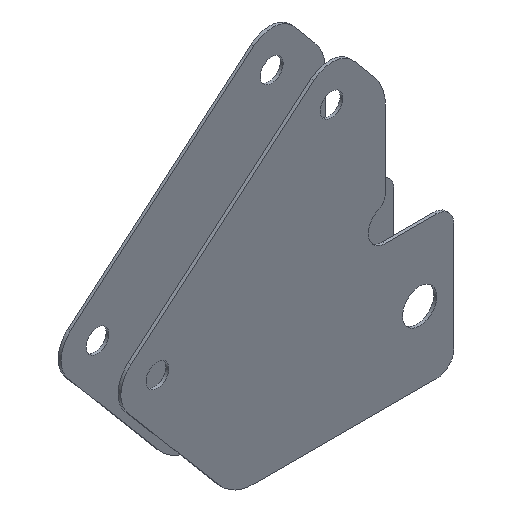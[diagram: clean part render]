
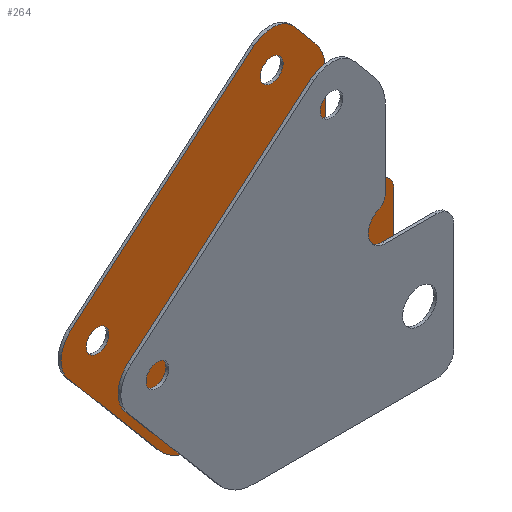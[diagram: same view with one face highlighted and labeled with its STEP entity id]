
A CAD part, isometric view. The second image highlights one B-rep face of the part: STEP entity #264.
In plain terms, the highlighted planar face has unit normal (0, -1, 0).
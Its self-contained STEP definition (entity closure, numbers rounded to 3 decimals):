
#57=CARTESIAN_POINT('Axis2P3D Location',(-9.449,5.,50.82)) ;
#61=CARTESIAN_POINT('Vertex',(-11.449,5.,50.82)) ;
#63=CARTESIAN_POINT('Vertex',(-7.449,5.,50.82)) ;
#92=CARTESIAN_POINT('Axis2P3D Location',(0.,5.,0.)) ;
#97=CARTESIAN_POINT('Line Origine',(12.,5.,12.5)) ;
#101=CARTESIAN_POINT('Vertex',(12.,5.,22.)) ;
#103=CARTESIAN_POINT('Vertex',(12.,5.,3.)) ;
#106=CARTESIAN_POINT('Axis2P3D Location',(9.,5.,22.)) ;
#110=CARTESIAN_POINT('Vertex',(9.,5.,25.)) ;
#113=CARTESIAN_POINT('Line Origine',(4.5,5.,25.)) ;
#117=CARTESIAN_POINT('Vertex',(0.,5.,25.)) ;
#120=CARTESIAN_POINT('Axis2P3D Location',(0.,5.,28.)) ;
#124=CARTESIAN_POINT('Vertex',(-1.2,5.,30.75)) ;
#127=CARTESIAN_POINT('Axis2P3D Location',(-2.,5.,32.583)) ;
#131=CARTESIAN_POINT('Vertex',(0.,5.,32.583)) ;
#134=CARTESIAN_POINT('Line Origine',(0.,5.,39.294)) ;
#138=CARTESIAN_POINT('Vertex',(0.,5.,46.006)) ;
#141=CARTESIAN_POINT('Axis2P3D Location',(-8.,5.,46.006)) ;
#145=CARTESIAN_POINT('Vertex',(-1.89,5.,51.17)) ;
#148=CARTESIAN_POINT('Line Origine',(-3.701,5.,53.313)) ;
#152=CARTESIAN_POINT('Vertex',(-5.512,5.,55.457)) ;
#155=CARTESIAN_POINT('Axis2P3D Location',(-9.331,5.,52.229)) ;
#159=CARTESIAN_POINT('Vertex',(-12.559,5.,56.048)) ;
#162=CARTESIAN_POINT('Line Origine',(-28.598,5.,42.492)) ;
#166=CARTESIAN_POINT('Vertex',(-44.637,5.,28.937)) ;
#169=CARTESIAN_POINT('Axis2P3D Location',(-41.409,5.,25.118)) ;
#173=CARTESIAN_POINT('Vertex',(-45.228,5.,21.891)) ;
#176=CARTESIAN_POINT('Line Origine',(-37.176,5.,12.363)) ;
#180=CARTESIAN_POINT('Vertex',(-29.124,5.,2.836)) ;
#183=CARTESIAN_POINT('Axis2P3D Location',(-23.014,5.,8.)) ;
#187=CARTESIAN_POINT('Vertex',(-23.014,5.,0.)) ;
#190=CARTESIAN_POINT('Line Origine',(-7.007,5.,0.)) ;
#194=CARTESIAN_POINT('Vertex',(9.,5.,0.)) ;
#197=CARTESIAN_POINT('Axis2P3D Location',(9.,5.,3.)) ;
#219=CARTESIAN_POINT('Axis2P3D Location',(-9.449,5.,50.82)) ;
#228=CARTESIAN_POINT('Axis2P3D Location',(-40.,5.,25.)) ;
#232=CARTESIAN_POINT('Vertex',(-42.,5.,25.)) ;
#234=CARTESIAN_POINT('Vertex',(-38.,5.,25.)) ;
#237=CARTESIAN_POINT('Axis2P3D Location',(-40.,5.,25.)) ;
#246=CARTESIAN_POINT('Axis2P3D Location',(6.,5.,12.5)) ;
#250=CARTESIAN_POINT('Vertex',(3.004,5.,12.347)) ;
#252=CARTESIAN_POINT('Vertex',(8.996,5.,12.653)) ;
#255=CARTESIAN_POINT('Axis2P3D Location',(6.,5.,12.5)) ;
#58=DIRECTION('Axis2P3D Direction',(0.,1.,0.)) ;
#93=DIRECTION('Axis2P3D Direction',(0.,1.,0.)) ;
#94=DIRECTION('Axis2P3D XDirection',(-1.,0.,0.)) ;
#98=DIRECTION('Vector Direction',(0.,0.,1.)) ;
#107=DIRECTION('Axis2P3D Direction',(0.,1.,0.)) ;
#114=DIRECTION('Vector Direction',(1.,0.,0.)) ;
#121=DIRECTION('Axis2P3D Direction',(0.,1.,0.)) ;
#128=DIRECTION('Axis2P3D Direction',(0.,1.,0.)) ;
#135=DIRECTION('Vector Direction',(0.,0.,1.)) ;
#142=DIRECTION('Axis2P3D Direction',(0.,1.,0.)) ;
#149=DIRECTION('Vector Direction',(-0.645,0.,0.764)) ;
#156=DIRECTION('Axis2P3D Direction',(0.,1.,0.)) ;
#163=DIRECTION('Vector Direction',(-0.764,0.,-0.645)) ;
#170=DIRECTION('Axis2P3D Direction',(0.,1.,0.)) ;
#177=DIRECTION('Vector Direction',(0.645,0.,-0.764)) ;
#184=DIRECTION('Axis2P3D Direction',(0.,1.,0.)) ;
#191=DIRECTION('Vector Direction',(1.,0.,0.)) ;
#198=DIRECTION('Axis2P3D Direction',(0.,1.,0.)) ;
#220=DIRECTION('Axis2P3D Direction',(0.,1.,0.)) ;
#229=DIRECTION('Axis2P3D Direction',(0.,1.,0.)) ;
#238=DIRECTION('Axis2P3D Direction',(0.,1.,0.)) ;
#247=DIRECTION('Axis2P3D Direction',(0.,1.,0.)) ;
#256=DIRECTION('Axis2P3D Direction',(0.,1.,0.)) ;
#59=AXIS2_PLACEMENT_3D('Circle Axis2P3D',#57,#58,$) ;
#95=AXIS2_PLACEMENT_3D('Plane Axis2P3D',#92,#93,#94) ;
#108=AXIS2_PLACEMENT_3D('Circle Axis2P3D',#106,#107,$) ;
#122=AXIS2_PLACEMENT_3D('Circle Axis2P3D',#120,#121,$) ;
#129=AXIS2_PLACEMENT_3D('Circle Axis2P3D',#127,#128,$) ;
#143=AXIS2_PLACEMENT_3D('Circle Axis2P3D',#141,#142,$) ;
#157=AXIS2_PLACEMENT_3D('Circle Axis2P3D',#155,#156,$) ;
#171=AXIS2_PLACEMENT_3D('Circle Axis2P3D',#169,#170,$) ;
#185=AXIS2_PLACEMENT_3D('Circle Axis2P3D',#183,#184,$) ;
#199=AXIS2_PLACEMENT_3D('Circle Axis2P3D',#197,#198,$) ;
#221=AXIS2_PLACEMENT_3D('Circle Axis2P3D',#219,#220,$) ;
#230=AXIS2_PLACEMENT_3D('Circle Axis2P3D',#228,#229,$) ;
#239=AXIS2_PLACEMENT_3D('Circle Axis2P3D',#237,#238,$) ;
#248=AXIS2_PLACEMENT_3D('Circle Axis2P3D',#246,#247,$) ;
#257=AXIS2_PLACEMENT_3D('Circle Axis2P3D',#255,#256,$) ;
#203=ORIENTED_EDGE('',*,*,#105,.F.) ;
#204=ORIENTED_EDGE('',*,*,#112,.F.) ;
#205=ORIENTED_EDGE('',*,*,#119,.F.) ;
#206=ORIENTED_EDGE('',*,*,#126,.F.) ;
#207=ORIENTED_EDGE('',*,*,#133,.F.) ;
#208=ORIENTED_EDGE('',*,*,#140,.F.) ;
#209=ORIENTED_EDGE('',*,*,#147,.F.) ;
#210=ORIENTED_EDGE('',*,*,#154,.F.) ;
#211=ORIENTED_EDGE('',*,*,#161,.F.) ;
#212=ORIENTED_EDGE('',*,*,#168,.F.) ;
#213=ORIENTED_EDGE('',*,*,#175,.F.) ;
#214=ORIENTED_EDGE('',*,*,#182,.F.) ;
#215=ORIENTED_EDGE('',*,*,#189,.F.) ;
#216=ORIENTED_EDGE('',*,*,#196,.F.) ;
#217=ORIENTED_EDGE('',*,*,#201,.F.) ;
#225=ORIENTED_EDGE('',*,*,#65,.T.) ;
#226=ORIENTED_EDGE('',*,*,#223,.T.) ;
#243=ORIENTED_EDGE('',*,*,#236,.T.) ;
#244=ORIENTED_EDGE('',*,*,#241,.T.) ;
#261=ORIENTED_EDGE('',*,*,#254,.T.) ;
#262=ORIENTED_EDGE('',*,*,#259,.T.) ;
#227=FACE_BOUND('',#224,.T.) ;
#245=FACE_BOUND('',#242,.T.) ;
#263=FACE_BOUND('',#260,.T.) ;
#99=VECTOR('Line Direction',#98,1.) ;
#115=VECTOR('Line Direction',#114,1.) ;
#136=VECTOR('Line Direction',#135,1.) ;
#150=VECTOR('Line Direction',#149,1.) ;
#164=VECTOR('Line Direction',#163,1.) ;
#178=VECTOR('Line Direction',#177,1.) ;
#192=VECTOR('Line Direction',#191,1.) ;
#264=ADVANCED_FACE('Corps principal',(#218,#227,#245,#263),#96,.F.) ;
#60=CIRCLE('generated circle',#59,2.) ;
#109=CIRCLE('generated circle',#108,3.) ;
#123=CIRCLE('generated circle',#122,3.) ;
#130=CIRCLE('generated circle',#129,2.) ;
#144=CIRCLE('generated circle',#143,8.) ;
#158=CIRCLE('generated circle',#157,5.) ;
#172=CIRCLE('generated circle',#171,5.) ;
#186=CIRCLE('generated circle',#185,8.) ;
#200=CIRCLE('generated circle',#199,3.) ;
#222=CIRCLE('generated circle',#221,2.) ;
#231=CIRCLE('generated circle',#230,2.) ;
#240=CIRCLE('generated circle',#239,2.) ;
#249=CIRCLE('generated circle',#248,3.) ;
#258=CIRCLE('generated circle',#257,3.) ;
#65=EDGE_CURVE('',#62,#64,#60,.T.) ;
#105=EDGE_CURVE('',#102,#104,#100,.F.) ;
#112=EDGE_CURVE('',#111,#102,#109,.T.) ;
#119=EDGE_CURVE('',#118,#111,#116,.T.) ;
#126=EDGE_CURVE('',#125,#118,#123,.F.) ;
#133=EDGE_CURVE('',#132,#125,#130,.T.) ;
#140=EDGE_CURVE('',#139,#132,#137,.F.) ;
#147=EDGE_CURVE('',#146,#139,#144,.T.) ;
#154=EDGE_CURVE('',#153,#146,#151,.F.) ;
#161=EDGE_CURVE('',#160,#153,#158,.T.) ;
#168=EDGE_CURVE('',#167,#160,#165,.F.) ;
#175=EDGE_CURVE('',#174,#167,#172,.T.) ;
#182=EDGE_CURVE('',#181,#174,#179,.F.) ;
#189=EDGE_CURVE('',#188,#181,#186,.T.) ;
#196=EDGE_CURVE('',#195,#188,#193,.F.) ;
#201=EDGE_CURVE('',#104,#195,#200,.T.) ;
#223=EDGE_CURVE('',#64,#62,#222,.T.) ;
#236=EDGE_CURVE('',#233,#235,#231,.T.) ;
#241=EDGE_CURVE('',#235,#233,#240,.T.) ;
#254=EDGE_CURVE('',#251,#253,#249,.T.) ;
#259=EDGE_CURVE('',#253,#251,#258,.T.) ;
#202=EDGE_LOOP('',(#203,#204,#205,#206,#207,#208,#209,#210,#211,#212,#213,#214,#215,#216,#217)) ;
#224=EDGE_LOOP('',(#225,#226)) ;
#242=EDGE_LOOP('',(#243,#244)) ;
#260=EDGE_LOOP('',(#261,#262)) ;
#218=FACE_OUTER_BOUND('',#202,.T.) ;
#100=LINE('Line',#97,#99) ;
#116=LINE('Line',#113,#115) ;
#137=LINE('Line',#134,#136) ;
#151=LINE('Line',#148,#150) ;
#165=LINE('Line',#162,#164) ;
#179=LINE('Line',#176,#178) ;
#193=LINE('Line',#190,#192) ;
#96=PLANE('',#95) ;
#62=VERTEX_POINT('',#61) ;
#64=VERTEX_POINT('',#63) ;
#102=VERTEX_POINT('',#101) ;
#104=VERTEX_POINT('',#103) ;
#111=VERTEX_POINT('',#110) ;
#118=VERTEX_POINT('',#117) ;
#125=VERTEX_POINT('',#124) ;
#132=VERTEX_POINT('',#131) ;
#139=VERTEX_POINT('',#138) ;
#146=VERTEX_POINT('',#145) ;
#153=VERTEX_POINT('',#152) ;
#160=VERTEX_POINT('',#159) ;
#167=VERTEX_POINT('',#166) ;
#174=VERTEX_POINT('',#173) ;
#181=VERTEX_POINT('',#180) ;
#188=VERTEX_POINT('',#187) ;
#195=VERTEX_POINT('',#194) ;
#233=VERTEX_POINT('',#232) ;
#235=VERTEX_POINT('',#234) ;
#251=VERTEX_POINT('',#250) ;
#253=VERTEX_POINT('',#252) ;
